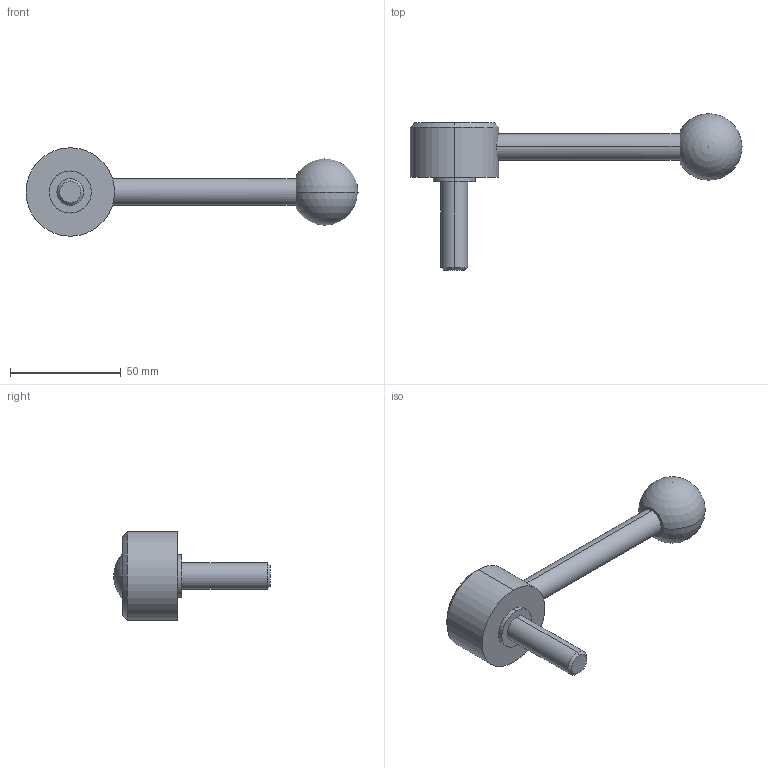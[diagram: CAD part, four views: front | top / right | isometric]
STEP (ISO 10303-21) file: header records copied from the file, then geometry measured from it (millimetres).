
FILE_DESCRIPTION (( 'STEP AP214' ), '1' );
FILE_NAME ('125.5-40-M12-40-D.step', '2020-02-18T11:36:08', ( '' ), ( '' ), 'SwSTEP 2.0', 'SolidWorks 2019', '' );
FILE_SCHEMA (( 'AUTOMOTIVE_DESIGN' ));
Length unit declared in the file: millimetre
Products named in the file (1): 125.5-40-M12-40-D
Bounding box: 150 x 70.7 x 40 mm (x, y, z)
Volume: 58986.4 mm3; surface area: 12748 mm2
Topology: 1 solids, 1 shells, 22 faces, 47 edges, 30 vertices
Faces by surface type: cylinder 10, plane 6, cone 4, sphere 2
Entity records: 748 total; most frequent: CARTESIAN_POINT 176, DIRECTION 112, ORIENTED_EDGE 84, AXIS2_PLACEMENT_3D 49, EDGE_CURVE 42, VERTEX_POINT 27, EDGE_LOOP 27, CIRCLE 26
